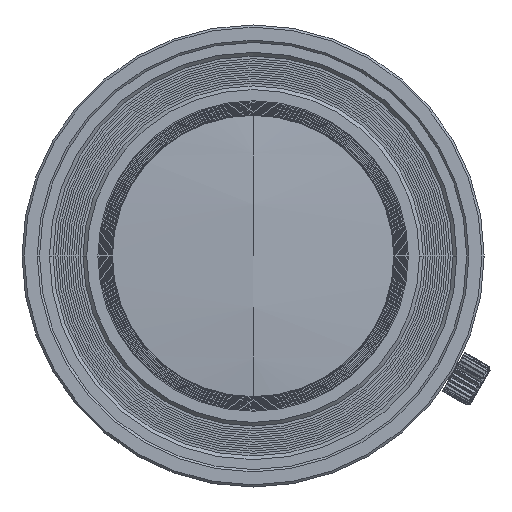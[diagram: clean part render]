
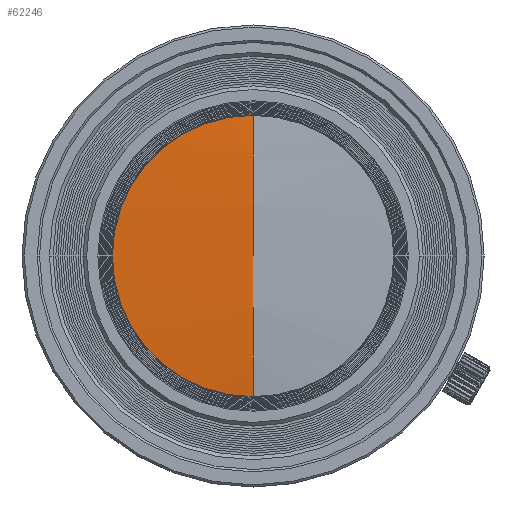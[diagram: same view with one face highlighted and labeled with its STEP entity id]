
A CAD part, left-side view. The second image highlights one B-rep face of the part: STEP entity #62246.
In plain terms, the highlighted spherical face has radius 203.104 mm.
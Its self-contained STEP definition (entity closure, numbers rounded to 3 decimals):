
#21712=CARTESIAN_POINT('',(-60.903,0.,0.));
#21713=DIRECTION('',(1.,0.,0.));
#21714=DIRECTION('',(0.,0.,-1.));
#21715=AXIS2_PLACEMENT_3D('',#21712,#21713,#21714);
#21717=CARTESIAN_POINT('',(141.142,0.,0.));
#21718=DIRECTION('',(0.,1.,0.));
#21719=DIRECTION('',(-1.,0.,0.));
#21720=AXIS2_PLACEMENT_3D('',#21717,#21718,#21719);
#21727=CARTESIAN_POINT('',(141.142,0.,0.));
#21728=DIRECTION('',(0.,1.,0.));
#21729=DIRECTION('',(-0.995,0.,-0.102));
#21730=AXIS2_PLACEMENT_3D('',#21727,#21728,#21729);
#34206=CARTESIAN_POINT('',(-60.903,0.,-20.71));
#34207=VERTEX_POINT('',#34206);
#34208=CARTESIAN_POINT('',(-60.903,0.,20.71));
#34209=VERTEX_POINT('',#34208);
#34210=CARTESIAN_POINT('',(-61.962,0.,0.));
#34211=VERTEX_POINT('',#34210);
#62234=CARTESIAN_POINT('',(141.142,0.,0.));
#62235=DIRECTION('',(1.,0.,0.));
#62236=DIRECTION('',(0.,0.,-1.));
#62237=AXIS2_PLACEMENT_3D('',#62234,#62235,#62236);
#62238=SPHERICAL_SURFACE('',#62237,203.104);
#62240=ORIENTED_EDGE('',*,*,#62239,.F.);
#62242=ORIENTED_EDGE('',*,*,#62241,.F.);
#62243=ORIENTED_EDGE('',*,*,#62228,.T.);
#62244=EDGE_LOOP('',(#62240,#62242,#62243));
#62245=FACE_OUTER_BOUND('',#62244,.F.);
#21716=CIRCLE('',#21715,20.71);
#21721=CIRCLE('',#21720,203.104);
#21731=CIRCLE('',#21730,203.104);
#62228=EDGE_CURVE('',#34207,#34209,#21716,.T.);
#62239=EDGE_CURVE('',#34211,#34209,#21721,.T.);
#62241=EDGE_CURVE('',#34207,#34211,#21731,.T.);
#62246=ADVANCED_FACE('',(#62245),#62238,.T.);
